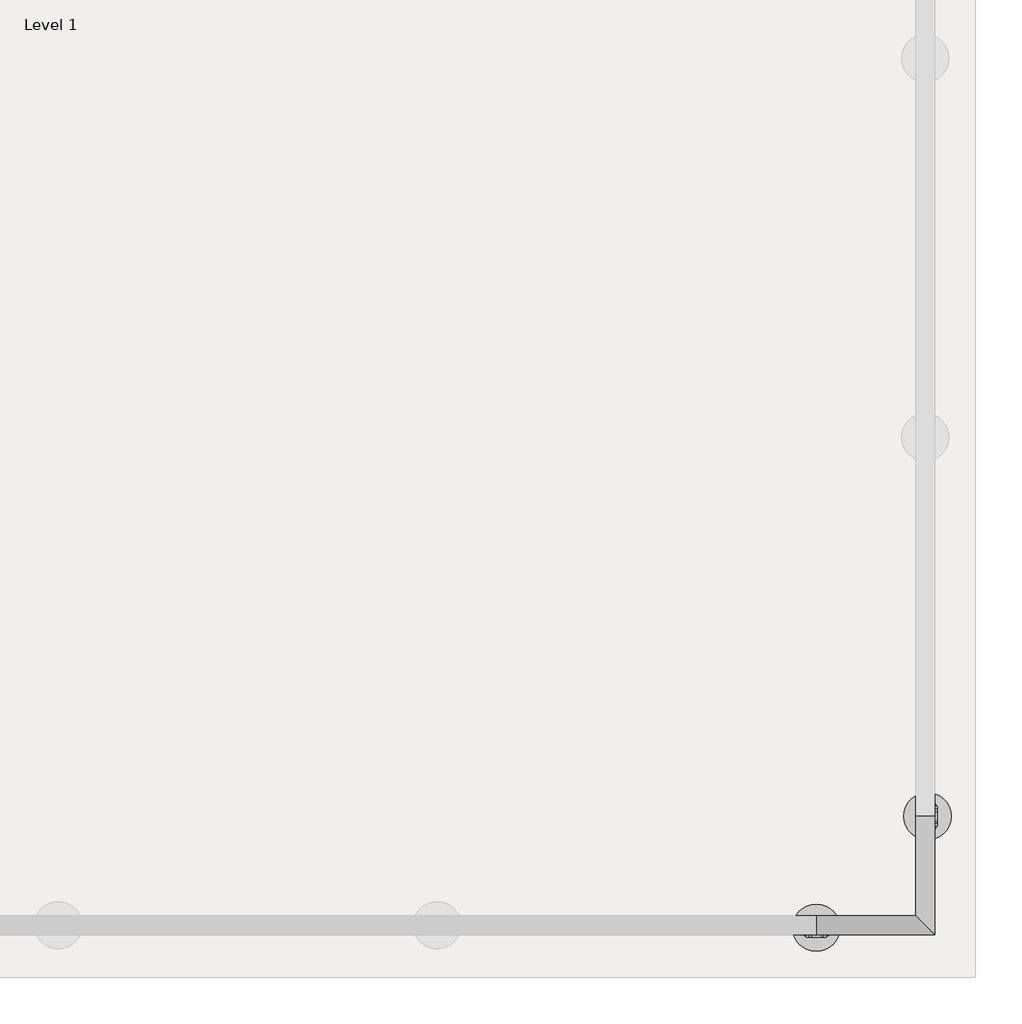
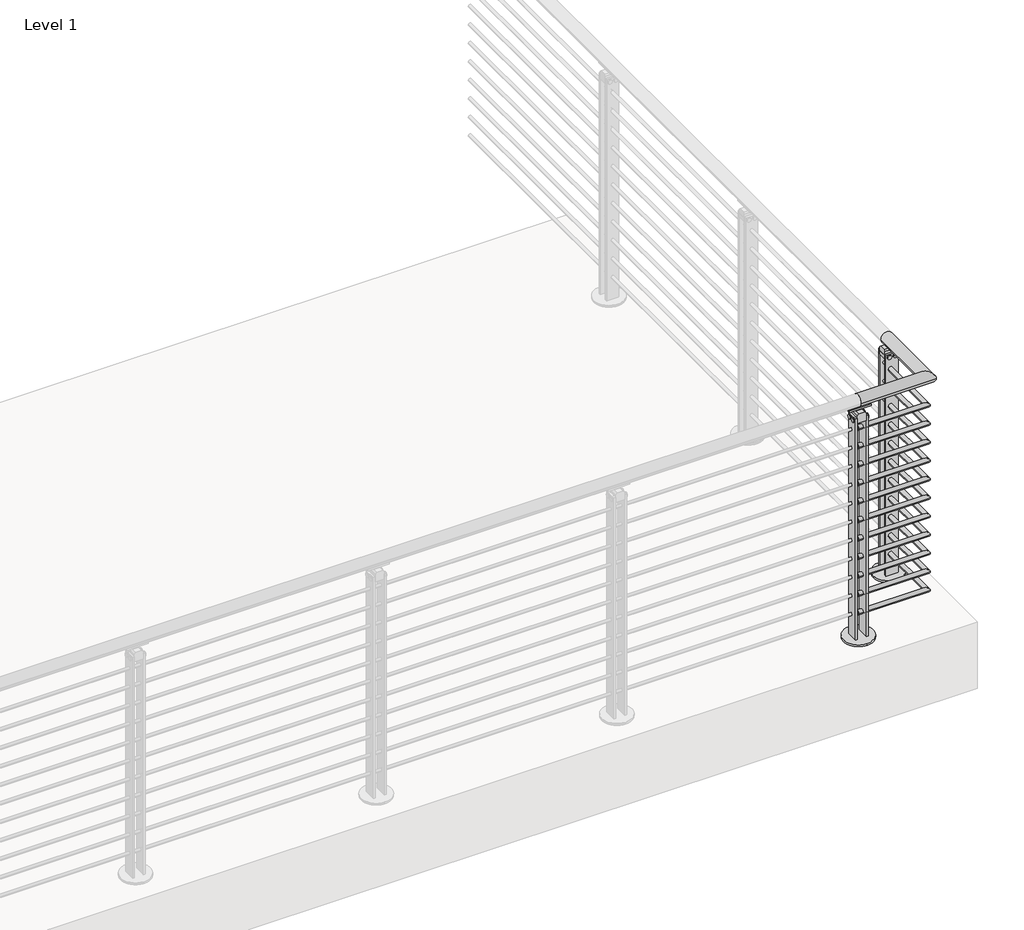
# One storey, part 13 of 36: 1 railing.
"""IFC4 building model written with IfcOpenShell, lengths in millimetres."""

from ifc_helpers import new_model, si_unit, point, frame, frame_2d, origin, origin_with_axes, place, context, project, spatial, polyline, circle_curve, ellipse_curve, trimmed, segment, composite_curve, outline, extrude, element, save
from ifc_brep_helpers import plane_surface, cylinder_surface, revolved_surface, advanced_brep

model = new_model("IFC4")

# Units and contexts
model_context = context("Model", 3, world=origin())
ifc_project = project(units=[si_unit("LENGTHUNIT", "METRE", prefix="MILLI")], contexts=[model_context])

# Site, building, storey
site = spatial("IfcSite", under=ifc_project)
building = spatial("IfcBuilding", under=site)
storey = spatial("IfcBuildingStorey", under=building, Name="Level 1", Elevation=0.0)

# Railing
placement = place(None, origin())
element("IfcRailing", 1, ObjectType="VIVA-BLADE-Multiline-Core Mount-Corner", at=placement, inside=storey, context=model_context, shape_type="SolidModel", body=[
    advanced_brep(
    [(69598.3092968, -74900.9334719, 1054.1), (69598.3092968, -74850.1334719, 1054.1), (69915.8092968, -74900.9334719, 1054.1), (69865.0092968, -74850.1334719, 1054.1), (69915.8092968, -74583.4334719, 1054.1), (69865.0092968, -74583.4334719, 1054.1)],
    [
        (0, 1, circle_curve(frame((69598.3092968, -74875.5334719, 1054.1), z_axis=(-1.0, 0.0, 0.0), x_axis=(0.0, 1.0, 0.0)), 25.4)),
        (1, 0, circle_curve(frame((69598.3092968, -74875.5334719, 1054.1), z_axis=(-1.0, 0.0, 0.0), x_axis=(0.0, 1.0, 0.0)), 25.4)),
        (0, 2),
        (2, 3, ellipse_curve(frame((69890.4092968, -74875.5334719, 1054.1), z_axis=(-0.7071067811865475, -0.7071067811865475, 0.0), x_axis=(-0.7071067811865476, 0.7071067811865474, 0.0)), 35.9210245, 25.4)),
        (3, 1),
        (3, 2, ellipse_curve(frame((69890.4092968, -74875.5334719, 1054.1), z_axis=(-0.7071067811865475, -0.7071067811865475, 0.0), x_axis=(-0.7071067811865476, 0.7071067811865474, 0.0)), 35.9210245, 25.4)),
        (4, 5, circle_curve(frame((69890.4092968, -74583.4334719, 1054.1), z_axis=(0.0, 1.0, 0.0), x_axis=(-1.0, 0.0, 0.0)), 25.4)),
        (5, 4, circle_curve(frame((69890.4092968, -74583.4334719, 1054.1), z_axis=(0.0, 1.0, 0.0), x_axis=(-1.0, 0.0, 0.0)), 25.4)),
        (2, 4),
        (5, 3),
    ],
    [
        plane_surface(frame((69598.3092968, -74875.5334719, 1079.5), z_axis=(-1.0, 0.0, 0.0), x_axis=(0.0, 1.0, 0.0))),
        cylinder_surface(frame((69598.3092968, -74875.5334719, 1054.1), z_axis=(-1.0, 0.0, 0.0), x_axis=(0.0, 1.0, 0.0)), 25.4),
        plane_surface(frame((69890.4092968, -74583.4334719, 1079.5), z_axis=(0.0, 1.0, 0.0), x_axis=(0.0, 0.0, 1.0))),
        cylinder_surface(frame((69890.4092968, -74875.5334719, 1054.1), z_axis=(0.0, -1.0, 0.0), x_axis=(-1.0, 0.0, 0.0)), 25.4),
    ],
    [
        (0, [[1, 2]]),
        (1, [[-1, 3, 4, 5]]),
        (1, [[-2, -5, 6, -3]]),
        (2, [[7, 8]]),
        (3, [[-4, 9, -8, 10]]),
        (3, [[-6, -10, -7, -9]]),
    ],
),
    advanced_brep(
    [(69598.3092968, -74866.0084719, 930.275), (69598.3092968, -74885.0584719, 930.275), (69880.8842968, -74866.0084719, 930.275), (69899.9342968, -74885.0584719, 930.275), (69880.8842968, -74583.4334719, 930.275), (69899.9342968, -74583.4334719, 930.275)],
    [
        (0, 1, circle_curve(frame((69598.3092968, -74875.5334719, 930.275), z_axis=(-1.0, 0.0, 0.0), x_axis=(0.0, -1.0, 0.0)), 9.525)),
        (1, 0, circle_curve(frame((69598.3092968, -74875.5334719, 930.275), z_axis=(-1.0, 0.0, 0.0), x_axis=(0.0, -1.0, 0.0)), 9.525)),
        (0, 2),
        (2, 3, ellipse_curve(frame((69890.4092968, -74875.5334719, 930.275), z_axis=(-0.7071067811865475, -0.7071067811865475, 0.0), x_axis=(-0.7071067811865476, 0.7071067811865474, 0.0)), 13.4703842, 9.525)),
        (3, 1),
        (3, 2, ellipse_curve(frame((69890.4092968, -74875.5334719, 930.275), z_axis=(-0.7071067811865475, -0.7071067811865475, 0.0), x_axis=(-0.7071067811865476, 0.7071067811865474, 0.0)), 13.4703842, 9.525)),
        (4, 5, circle_curve(frame((69890.4092968, -74583.4334719, 930.275), z_axis=(0.0, 1.0, 0.0), x_axis=(1.0, 0.0, 0.0)), 9.525)),
        (5, 4, circle_curve(frame((69890.4092968, -74583.4334719, 930.275), z_axis=(0.0, 1.0, 0.0), x_axis=(1.0, 0.0, 0.0)), 9.525)),
        (2, 4),
        (5, 3),
    ],
    [
        plane_surface(frame((69598.3092968, -74875.5334719, 939.8), z_axis=(-1.0, 0.0, 0.0), x_axis=(0.0, 1.0, 0.0))),
        cylinder_surface(frame((69598.3092968, -74875.5334719, 930.275), z_axis=(-1.0, 0.0, 0.0), x_axis=(0.0, -1.0, 0.0)), 9.525),
        plane_surface(frame((69890.4092968, -74583.4334719, 939.8), z_axis=(0.0, 1.0, 0.0), x_axis=(0.0, 0.0, 1.0))),
        cylinder_surface(frame((69890.4092968, -74875.5334719, 930.275), z_axis=(0.0, -1.0, 0.0), x_axis=(1.0, 0.0, 0.0)), 9.525),
    ],
    [
        (0, [[1, 2]]),
        (1, [[-1, 3, 4, 5]]),
        (1, [[-2, -5, 6, -3]]),
        (2, [[7, 8]]),
        (3, [[-4, 9, -8, 10]]),
        (3, [[-6, -10, -7, -9]]),
    ],
),
    advanced_brep(
    [(69598.3092968, -74866.0084719, 847.725), (69598.3092968, -74885.0584719, 847.725), (69880.8842968, -74866.0084719, 847.725), (69899.9342968, -74885.0584719, 847.725), (69880.8842968, -74583.4334719, 847.725), (69899.9342968, -74583.4334719, 847.725)],
    [
        (0, 1, circle_curve(frame((69598.3092968, -74875.5334719, 847.725), z_axis=(-1.0, 0.0, 0.0), x_axis=(0.0, -1.0, 0.0)), 9.525)),
        (1, 0, circle_curve(frame((69598.3092968, -74875.5334719, 847.725), z_axis=(-1.0, 0.0, 0.0), x_axis=(0.0, -1.0, 0.0)), 9.525)),
        (0, 2),
        (2, 3, ellipse_curve(frame((69890.4092968, -74875.5334719, 847.725), z_axis=(-0.7071067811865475, -0.7071067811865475, 0.0), x_axis=(-0.7071067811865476, 0.7071067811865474, 0.0)), 13.4703842, 9.525)),
        (3, 1),
        (3, 2, ellipse_curve(frame((69890.4092968, -74875.5334719, 847.725), z_axis=(-0.7071067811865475, -0.7071067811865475, 0.0), x_axis=(-0.7071067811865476, 0.7071067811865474, 0.0)), 13.4703842, 9.525)),
        (4, 5, circle_curve(frame((69890.4092968, -74583.4334719, 847.725), z_axis=(0.0, 1.0, 0.0), x_axis=(1.0, 0.0, 0.0)), 9.525)),
        (5, 4, circle_curve(frame((69890.4092968, -74583.4334719, 847.725), z_axis=(0.0, 1.0, 0.0), x_axis=(1.0, 0.0, 0.0)), 9.525)),
        (2, 4),
        (5, 3),
    ],
    [
        plane_surface(frame((69598.3092968, -74875.5334719, 857.25), z_axis=(-1.0, 0.0, 0.0), x_axis=(0.0, 1.0, 0.0))),
        cylinder_surface(frame((69598.3092968, -74875.5334719, 847.725), z_axis=(-1.0, 0.0, 0.0), x_axis=(0.0, -1.0, 0.0)), 9.525),
        plane_surface(frame((69890.4092968, -74583.4334719, 857.25), z_axis=(0.0, 1.0, 0.0), x_axis=(0.0, 0.0, 1.0))),
        cylinder_surface(frame((69890.4092968, -74875.5334719, 847.725), z_axis=(0.0, -1.0, 0.0), x_axis=(1.0, 0.0, 0.0)), 9.525),
    ],
    [
        (0, [[1, 2]]),
        (1, [[-1, 3, 4, 5]]),
        (1, [[-2, -5, 6, -3]]),
        (2, [[7, 8]]),
        (3, [[-4, 9, -8, 10]]),
        (3, [[-6, -10, -7, -9]]),
    ],
),
    advanced_brep(
    [(69598.3092968, -74866.0084719, 765.175), (69598.3092968, -74885.0584719, 765.175), (69880.8842968, -74866.0084719, 765.175), (69899.9342968, -74885.0584719, 765.175), (69880.8842968, -74583.4334719, 765.175), (69899.9342968, -74583.4334719, 765.175)],
    [
        (0, 1, circle_curve(frame((69598.3092968, -74875.5334719, 765.175), z_axis=(-1.0, 0.0, 0.0), x_axis=(0.0, -1.0, 0.0)), 9.525)),
        (1, 0, circle_curve(frame((69598.3092968, -74875.5334719, 765.175), z_axis=(-1.0, 0.0, 0.0), x_axis=(0.0, -1.0, 0.0)), 9.525)),
        (0, 2),
        (2, 3, ellipse_curve(frame((69890.4092968, -74875.5334719, 765.175), z_axis=(-0.7071067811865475, -0.7071067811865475, 0.0), x_axis=(-0.7071067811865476, 0.7071067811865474, 0.0)), 13.4703842, 9.525)),
        (3, 1),
        (3, 2, ellipse_curve(frame((69890.4092968, -74875.5334719, 765.175), z_axis=(-0.7071067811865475, -0.7071067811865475, 0.0), x_axis=(-0.7071067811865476, 0.7071067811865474, 0.0)), 13.4703842, 9.525)),
        (4, 5, circle_curve(frame((69890.4092968, -74583.4334719, 765.175), z_axis=(0.0, 1.0, 0.0), x_axis=(1.0, 0.0, 0.0)), 9.525)),
        (5, 4, circle_curve(frame((69890.4092968, -74583.4334719, 765.175), z_axis=(0.0, 1.0, 0.0), x_axis=(1.0, 0.0, 0.0)), 9.525)),
        (2, 4),
        (5, 3),
    ],
    [
        plane_surface(frame((69598.3092968, -74875.5334719, 774.7), z_axis=(-1.0, 0.0, 0.0), x_axis=(0.0, 1.0, 0.0))),
        cylinder_surface(frame((69598.3092968, -74875.5334719, 765.175), z_axis=(-1.0, 0.0, 0.0), x_axis=(0.0, -1.0, 0.0)), 9.525),
        plane_surface(frame((69890.4092968, -74583.4334719, 774.7), z_axis=(0.0, 1.0, 0.0), x_axis=(0.0, 0.0, 1.0))),
        cylinder_surface(frame((69890.4092968, -74875.5334719, 765.175), z_axis=(0.0, -1.0, 0.0), x_axis=(1.0, 0.0, 0.0)), 9.525),
    ],
    [
        (0, [[1, 2]]),
        (1, [[-1, 3, 4, 5]]),
        (1, [[-2, -5, 6, -3]]),
        (2, [[7, 8]]),
        (3, [[-4, 9, -8, 10]]),
        (3, [[-6, -10, -7, -9]]),
    ],
),
    advanced_brep(
    [(69598.3092968, -74866.0084719, 682.625), (69598.3092968, -74885.0584719, 682.625), (69880.8842968, -74866.0084719, 682.625), (69899.9342968, -74885.0584719, 682.625), (69880.8842968, -74583.4334719, 682.625), (69899.9342968, -74583.4334719, 682.625)],
    [
        (0, 1, circle_curve(frame((69598.3092968, -74875.5334719, 682.625), z_axis=(-1.0, 0.0, 0.0), x_axis=(0.0, -1.0, 0.0)), 9.525)),
        (1, 0, circle_curve(frame((69598.3092968, -74875.5334719, 682.625), z_axis=(-1.0, 0.0, 0.0), x_axis=(0.0, -1.0, 0.0)), 9.525)),
        (0, 2),
        (2, 3, ellipse_curve(frame((69890.4092968, -74875.5334719, 682.625), z_axis=(-0.7071067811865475, -0.7071067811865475, 0.0), x_axis=(-0.7071067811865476, 0.7071067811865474, 0.0)), 13.4703842, 9.525)),
        (3, 1),
        (3, 2, ellipse_curve(frame((69890.4092968, -74875.5334719, 682.625), z_axis=(-0.7071067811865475, -0.7071067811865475, 0.0), x_axis=(-0.7071067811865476, 0.7071067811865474, 0.0)), 13.4703842, 9.525)),
        (4, 5, circle_curve(frame((69890.4092968, -74583.4334719, 682.625), z_axis=(0.0, 1.0, 0.0), x_axis=(1.0, 0.0, 0.0)), 9.525)),
        (5, 4, circle_curve(frame((69890.4092968, -74583.4334719, 682.625), z_axis=(0.0, 1.0, 0.0), x_axis=(1.0, 0.0, 0.0)), 9.525)),
        (2, 4),
        (5, 3),
    ],
    [
        plane_surface(frame((69598.3092968, -74875.5334719, 692.15), z_axis=(-1.0, 0.0, 0.0), x_axis=(0.0, 1.0, 0.0))),
        cylinder_surface(frame((69598.3092968, -74875.5334719, 682.625), z_axis=(-1.0, 0.0, 0.0), x_axis=(0.0, -1.0, 0.0)), 9.525),
        plane_surface(frame((69890.4092968, -74583.4334719, 692.15), z_axis=(0.0, 1.0, 0.0), x_axis=(0.0, 0.0, 1.0))),
        cylinder_surface(frame((69890.4092968, -74875.5334719, 682.625), z_axis=(0.0, -1.0, 0.0), x_axis=(1.0, 0.0, 0.0)), 9.525),
    ],
    [
        (0, [[1, 2]]),
        (1, [[-1, 3, 4, 5]]),
        (1, [[-2, -5, 6, -3]]),
        (2, [[7, 8]]),
        (3, [[-4, 9, -8, 10]]),
        (3, [[-6, -10, -7, -9]]),
    ],
),
    advanced_brep(
    [(69598.3092968, -74866.0084719, 600.075), (69598.3092968, -74885.0584719, 600.075), (69880.8842968, -74866.0084719, 600.075), (69899.9342968, -74885.0584719, 600.075), (69880.8842968, -74583.4334719, 600.075), (69899.9342968, -74583.4334719, 600.075)],
    [
        (0, 1, circle_curve(frame((69598.3092968, -74875.5334719, 600.075), z_axis=(-1.0, 0.0, 0.0), x_axis=(0.0, -1.0, 0.0)), 9.525)),
        (1, 0, circle_curve(frame((69598.3092968, -74875.5334719, 600.075), z_axis=(-1.0, 0.0, 0.0), x_axis=(0.0, -1.0, 0.0)), 9.525)),
        (0, 2),
        (2, 3, ellipse_curve(frame((69890.4092968, -74875.5334719, 600.075), z_axis=(-0.7071067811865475, -0.7071067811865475, 0.0), x_axis=(-0.7071067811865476, 0.7071067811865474, 0.0)), 13.4703842, 9.525)),
        (3, 1),
        (3, 2, ellipse_curve(frame((69890.4092968, -74875.5334719, 600.075), z_axis=(-0.7071067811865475, -0.7071067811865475, 0.0), x_axis=(-0.7071067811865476, 0.7071067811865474, 0.0)), 13.4703842, 9.525)),
        (4, 5, circle_curve(frame((69890.4092968, -74583.4334719, 600.075), z_axis=(0.0, 1.0, 0.0), x_axis=(1.0, 0.0, 0.0)), 9.525)),
        (5, 4, circle_curve(frame((69890.4092968, -74583.4334719, 600.075), z_axis=(0.0, 1.0, 0.0), x_axis=(1.0, 0.0, 0.0)), 9.525)),
        (2, 4),
        (5, 3),
    ],
    [
        plane_surface(frame((69598.3092968, -74875.5334719, 609.6), z_axis=(-1.0, 0.0, 0.0), x_axis=(0.0, 1.0, 0.0))),
        cylinder_surface(frame((69598.3092968, -74875.5334719, 600.075), z_axis=(-1.0, 0.0, 0.0), x_axis=(0.0, -1.0, 0.0)), 9.525),
        plane_surface(frame((69890.4092968, -74583.4334719, 609.6), z_axis=(0.0, 1.0, 0.0), x_axis=(0.0, 0.0, 1.0))),
        cylinder_surface(frame((69890.4092968, -74875.5334719, 600.075), z_axis=(0.0, -1.0, 0.0), x_axis=(1.0, 0.0, 0.0)), 9.525),
    ],
    [
        (0, [[1, 2]]),
        (1, [[-1, 3, 4, 5]]),
        (1, [[-2, -5, 6, -3]]),
        (2, [[7, 8]]),
        (3, [[-4, 9, -8, 10]]),
        (3, [[-6, -10, -7, -9]]),
    ],
),
    advanced_brep(
    [(69598.3092968, -74866.0084719, 517.525), (69598.3092968, -74885.0584719, 517.525), (69880.8842968, -74866.0084719, 517.525), (69899.9342968, -74885.0584719, 517.525), (69880.8842968, -74583.4334719, 517.525), (69899.9342968, -74583.4334719, 517.525)],
    [
        (0, 1, circle_curve(frame((69598.3092968, -74875.5334719, 517.525), z_axis=(-1.0, 0.0, 0.0), x_axis=(0.0, -1.0, 0.0)), 9.525)),
        (1, 0, circle_curve(frame((69598.3092968, -74875.5334719, 517.525), z_axis=(-1.0, 0.0, 0.0), x_axis=(0.0, -1.0, 0.0)), 9.525)),
        (0, 2),
        (2, 3, ellipse_curve(frame((69890.4092968, -74875.5334719, 517.525), z_axis=(-0.7071067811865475, -0.7071067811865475, 0.0), x_axis=(-0.7071067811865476, 0.7071067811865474, 0.0)), 13.4703842, 9.525)),
        (3, 1),
        (3, 2, ellipse_curve(frame((69890.4092968, -74875.5334719, 517.525), z_axis=(-0.7071067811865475, -0.7071067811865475, 0.0), x_axis=(-0.7071067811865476, 0.7071067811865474, 0.0)), 13.4703842, 9.525)),
        (4, 5, circle_curve(frame((69890.4092968, -74583.4334719, 517.525), z_axis=(0.0, 1.0, 0.0), x_axis=(1.0, 0.0, 0.0)), 9.525)),
        (5, 4, circle_curve(frame((69890.4092968, -74583.4334719, 517.525), z_axis=(0.0, 1.0, 0.0), x_axis=(1.0, 0.0, 0.0)), 9.525)),
        (2, 4),
        (5, 3),
    ],
    [
        plane_surface(frame((69598.3092968, -74875.5334719, 527.05), z_axis=(-1.0, 0.0, 0.0), x_axis=(0.0, 1.0, 0.0))),
        cylinder_surface(frame((69598.3092968, -74875.5334719, 517.525), z_axis=(-1.0, 0.0, 0.0), x_axis=(0.0, -1.0, 0.0)), 9.525),
        plane_surface(frame((69890.4092968, -74583.4334719, 527.05), z_axis=(0.0, 1.0, 0.0), x_axis=(0.0, 0.0, 1.0))),
        cylinder_surface(frame((69890.4092968, -74875.5334719, 517.525), z_axis=(0.0, -1.0, 0.0), x_axis=(1.0, 0.0, 0.0)), 9.525),
    ],
    [
        (0, [[1, 2]]),
        (1, [[-1, 3, 4, 5]]),
        (1, [[-2, -5, 6, -3]]),
        (2, [[7, 8]]),
        (3, [[-4, 9, -8, 10]]),
        (3, [[-6, -10, -7, -9]]),
    ],
),
    advanced_brep(
    [(69598.3092968, -74866.0084719, 434.975), (69598.3092968, -74885.0584719, 434.975), (69880.8842968, -74866.0084719, 434.975), (69899.9342968, -74885.0584719, 434.975), (69880.8842968, -74583.4334719, 434.975), (69899.9342968, -74583.4334719, 434.975)],
    [
        (0, 1, circle_curve(frame((69598.3092968, -74875.5334719, 434.975), z_axis=(-1.0, 0.0, 0.0), x_axis=(0.0, -1.0, 0.0)), 9.525)),
        (1, 0, circle_curve(frame((69598.3092968, -74875.5334719, 434.975), z_axis=(-1.0, 0.0, 0.0), x_axis=(0.0, -1.0, 0.0)), 9.525)),
        (0, 2),
        (2, 3, ellipse_curve(frame((69890.4092968, -74875.5334719, 434.975), z_axis=(-0.7071067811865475, -0.7071067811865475, 0.0), x_axis=(-0.7071067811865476, 0.7071067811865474, 0.0)), 13.4703842, 9.525)),
        (3, 1),
        (3, 2, ellipse_curve(frame((69890.4092968, -74875.5334719, 434.975), z_axis=(-0.7071067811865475, -0.7071067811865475, 0.0), x_axis=(-0.7071067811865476, 0.7071067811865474, 0.0)), 13.4703842, 9.525)),
        (4, 5, circle_curve(frame((69890.4092968, -74583.4334719, 434.975), z_axis=(0.0, 1.0, 0.0), x_axis=(1.0, 0.0, 0.0)), 9.525)),
        (5, 4, circle_curve(frame((69890.4092968, -74583.4334719, 434.975), z_axis=(0.0, 1.0, 0.0), x_axis=(1.0, 0.0, 0.0)), 9.525)),
        (2, 4),
        (5, 3),
    ],
    [
        plane_surface(frame((69598.3092968, -74875.5334719, 444.5), z_axis=(-1.0, 0.0, 0.0), x_axis=(0.0, 1.0, 0.0))),
        cylinder_surface(frame((69598.3092968, -74875.5334719, 434.975), z_axis=(-1.0, 0.0, 0.0), x_axis=(0.0, -1.0, 0.0)), 9.525),
        plane_surface(frame((69890.4092968, -74583.4334719, 444.5), z_axis=(0.0, 1.0, 0.0), x_axis=(0.0, 0.0, 1.0))),
        cylinder_surface(frame((69890.4092968, -74875.5334719, 434.975), z_axis=(0.0, -1.0, 0.0), x_axis=(1.0, 0.0, 0.0)), 9.525),
    ],
    [
        (0, [[1, 2]]),
        (1, [[-1, 3, 4, 5]]),
        (1, [[-2, -5, 6, -3]]),
        (2, [[7, 8]]),
        (3, [[-4, 9, -8, 10]]),
        (3, [[-6, -10, -7, -9]]),
    ],
),
    advanced_brep(
    [(69598.3092968, -74866.0084719, 352.425), (69598.3092968, -74885.0584719, 352.425), (69880.8842968, -74866.0084719, 352.425), (69899.9342968, -74885.0584719, 352.425), (69880.8842968, -74583.4334719, 352.425), (69899.9342968, -74583.4334719, 352.425)],
    [
        (0, 1, circle_curve(frame((69598.3092968, -74875.5334719, 352.425), z_axis=(-1.0, 0.0, 0.0), x_axis=(0.0, -1.0, 0.0)), 9.525)),
        (1, 0, circle_curve(frame((69598.3092968, -74875.5334719, 352.425), z_axis=(-1.0, 0.0, 0.0), x_axis=(0.0, -1.0, 0.0)), 9.525)),
        (0, 2),
        (2, 3, ellipse_curve(frame((69890.4092968, -74875.5334719, 352.425), z_axis=(-0.7071067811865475, -0.7071067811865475, 0.0), x_axis=(-0.7071067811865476, 0.7071067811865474, 0.0)), 13.4703842, 9.525)),
        (3, 1),
        (3, 2, ellipse_curve(frame((69890.4092968, -74875.5334719, 352.425), z_axis=(-0.7071067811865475, -0.7071067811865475, 0.0), x_axis=(-0.7071067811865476, 0.7071067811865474, 0.0)), 13.4703842, 9.525)),
        (4, 5, circle_curve(frame((69890.4092968, -74583.4334719, 352.425), z_axis=(0.0, 1.0, 0.0), x_axis=(1.0, 0.0, 0.0)), 9.525)),
        (5, 4, circle_curve(frame((69890.4092968, -74583.4334719, 352.425), z_axis=(0.0, 1.0, 0.0), x_axis=(1.0, 0.0, 0.0)), 9.525)),
        (2, 4),
        (5, 3),
    ],
    [
        plane_surface(frame((69598.3092968, -74875.5334719, 361.95), z_axis=(-1.0, 0.0, 0.0), x_axis=(0.0, 1.0, 0.0))),
        cylinder_surface(frame((69598.3092968, -74875.5334719, 352.425), z_axis=(-1.0, 0.0, 0.0), x_axis=(0.0, -1.0, 0.0)), 9.525),
        plane_surface(frame((69890.4092968, -74583.4334719, 361.95), z_axis=(0.0, 1.0, 0.0), x_axis=(0.0, 0.0, 1.0))),
        cylinder_surface(frame((69890.4092968, -74875.5334719, 352.425), z_axis=(0.0, -1.0, 0.0), x_axis=(1.0, 0.0, 0.0)), 9.525),
    ],
    [
        (0, [[1, 2]]),
        (1, [[-1, 3, 4, 5]]),
        (1, [[-2, -5, 6, -3]]),
        (2, [[7, 8]]),
        (3, [[-4, 9, -8, 10]]),
        (3, [[-6, -10, -7, -9]]),
    ],
),
    advanced_brep(
    [(69598.3092968, -74866.0084719, 269.875), (69598.3092968, -74885.0584719, 269.875), (69880.8842968, -74866.0084719, 269.875), (69899.9342968, -74885.0584719, 269.875), (69880.8842968, -74583.4334719, 269.875), (69899.9342968, -74583.4334719, 269.875)],
    [
        (0, 1, circle_curve(frame((69598.3092968, -74875.5334719, 269.875), z_axis=(-1.0, 0.0, 0.0), x_axis=(0.0, -1.0, 0.0)), 9.525)),
        (1, 0, circle_curve(frame((69598.3092968, -74875.5334719, 269.875), z_axis=(-1.0, 0.0, 0.0), x_axis=(0.0, -1.0, 0.0)), 9.525)),
        (0, 2),
        (2, 3, ellipse_curve(frame((69890.4092968, -74875.5334719, 269.875), z_axis=(-0.7071067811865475, -0.7071067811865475, 0.0), x_axis=(-0.7071067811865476, 0.7071067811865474, 0.0)), 13.4703842, 9.525)),
        (3, 1),
        (3, 2, ellipse_curve(frame((69890.4092968, -74875.5334719, 269.875), z_axis=(-0.7071067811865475, -0.7071067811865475, 0.0), x_axis=(-0.7071067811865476, 0.7071067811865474, 0.0)), 13.4703842, 9.525)),
        (4, 5, circle_curve(frame((69890.4092968, -74583.4334719, 269.875), z_axis=(0.0, 1.0, 0.0), x_axis=(1.0, 0.0, 0.0)), 9.525)),
        (5, 4, circle_curve(frame((69890.4092968, -74583.4334719, 269.875), z_axis=(0.0, 1.0, 0.0), x_axis=(1.0, 0.0, 0.0)), 9.525)),
        (2, 4),
        (5, 3),
    ],
    [
        plane_surface(frame((69598.3092968, -74875.5334719, 279.4), z_axis=(-1.0, 0.0, 0.0), x_axis=(0.0, 1.0, 0.0))),
        cylinder_surface(frame((69598.3092968, -74875.5334719, 269.875), z_axis=(-1.0, 0.0, 0.0), x_axis=(0.0, -1.0, 0.0)), 9.525),
        plane_surface(frame((69890.4092968, -74583.4334719, 279.4), z_axis=(0.0, 1.0, 0.0), x_axis=(0.0, 0.0, 1.0))),
        cylinder_surface(frame((69890.4092968, -74875.5334719, 269.875), z_axis=(0.0, -1.0, 0.0), x_axis=(1.0, 0.0, 0.0)), 9.525),
    ],
    [
        (0, [[1, 2]]),
        (1, [[-1, 3, 4, 5]]),
        (1, [[-2, -5, 6, -3]]),
        (2, [[7, 8]]),
        (3, [[-4, 9, -8, 10]]),
        (3, [[-6, -10, -7, -9]]),
    ],
),
    advanced_brep(
    [(69598.3092968, -74866.0084719, 187.325), (69598.3092968, -74885.0584719, 187.325), (69880.8842968, -74866.0084719, 187.325), (69899.9342968, -74885.0584719, 187.325), (69880.8842968, -74583.4334719, 187.325), (69899.9342968, -74583.4334719, 187.325)],
    [
        (0, 1, circle_curve(frame((69598.3092968, -74875.5334719, 187.325), z_axis=(-1.0, 0.0, 0.0), x_axis=(0.0, -1.0, 0.0)), 9.525)),
        (1, 0, circle_curve(frame((69598.3092968, -74875.5334719, 187.325), z_axis=(-1.0, 0.0, 0.0), x_axis=(0.0, -1.0, 0.0)), 9.525)),
        (0, 2),
        (2, 3, ellipse_curve(frame((69890.4092968, -74875.5334719, 187.325), z_axis=(-0.7071067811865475, -0.7071067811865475, 0.0), x_axis=(-0.7071067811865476, 0.7071067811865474, 0.0)), 13.4703842, 9.525)),
        (3, 1),
        (3, 2, ellipse_curve(frame((69890.4092968, -74875.5334719, 187.325), z_axis=(-0.7071067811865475, -0.7071067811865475, 0.0), x_axis=(-0.7071067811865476, 0.7071067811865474, 0.0)), 13.4703842, 9.525)),
        (4, 5, circle_curve(frame((69890.4092968, -74583.4334719, 187.325), z_axis=(0.0, 1.0, 0.0), x_axis=(1.0, 0.0, 0.0)), 9.525)),
        (5, 4, circle_curve(frame((69890.4092968, -74583.4334719, 187.325), z_axis=(0.0, 1.0, 0.0), x_axis=(1.0, 0.0, 0.0)), 9.525)),
        (2, 4),
        (5, 3),
    ],
    [
        plane_surface(frame((69598.3092968, -74875.5334719, 196.85), z_axis=(-1.0, 0.0, 0.0), x_axis=(0.0, 1.0, 0.0))),
        cylinder_surface(frame((69598.3092968, -74875.5334719, 187.325), z_axis=(-1.0, 0.0, 0.0), x_axis=(0.0, -1.0, 0.0)), 9.525),
        plane_surface(frame((69890.4092968, -74583.4334719, 196.85), z_axis=(0.0, 1.0, 0.0), x_axis=(0.0, 0.0, 1.0))),
        cylinder_surface(frame((69890.4092968, -74875.5334719, 187.325), z_axis=(0.0, -1.0, 0.0), x_axis=(1.0, 0.0, 0.0)), 9.525),
    ],
    [
        (0, [[1, 2]]),
        (1, [[-1, 3, 4, 5]]),
        (1, [[-2, -5, 6, -3]]),
        (2, [[7, 8]]),
        (3, [[-4, 9, -8, 10]]),
        (3, [[-6, -10, -7, -9]]),
    ],
),
    advanced_brep(
    [(69598.3092968, -74866.0084719, 104.775), (69598.3092968, -74885.0584719, 104.775), (69880.8842968, -74866.0084719, 104.775), (69899.9342968, -74885.0584719, 104.775), (69880.8842968, -74583.4334719, 104.775), (69899.9342968, -74583.4334719, 104.775)],
    [
        (0, 1, circle_curve(frame((69598.3092968, -74875.5334719, 104.775), z_axis=(-1.0, 0.0, 0.0), x_axis=(0.0, -1.0, 0.0)), 9.525)),
        (1, 0, circle_curve(frame((69598.3092968, -74875.5334719, 104.775), z_axis=(-1.0, 0.0, 0.0), x_axis=(0.0, -1.0, 0.0)), 9.525)),
        (0, 2),
        (2, 3, ellipse_curve(frame((69890.4092968, -74875.5334719, 104.775), z_axis=(-0.7071067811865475, -0.7071067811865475, 0.0), x_axis=(-0.7071067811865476, 0.7071067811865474, 0.0)), 13.4703842, 9.525)),
        (3, 1),
        (3, 2, ellipse_curve(frame((69890.4092968, -74875.5334719, 104.775), z_axis=(-0.7071067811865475, -0.7071067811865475, 0.0), x_axis=(-0.7071067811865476, 0.7071067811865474, 0.0)), 13.4703842, 9.525)),
        (4, 5, circle_curve(frame((69890.4092968, -74583.4334719, 104.775), z_axis=(0.0, 1.0, 0.0), x_axis=(1.0, 0.0, 0.0)), 9.525)),
        (5, 4, circle_curve(frame((69890.4092968, -74583.4334719, 104.775), z_axis=(0.0, 1.0, 0.0), x_axis=(1.0, 0.0, 0.0)), 9.525)),
        (2, 4),
        (5, 3),
    ],
    [
        plane_surface(frame((69598.3092968, -74875.5334719, 114.3), z_axis=(-1.0, 0.0, 0.0), x_axis=(0.0, 1.0, 0.0))),
        cylinder_surface(frame((69598.3092968, -74875.5334719, 104.775), z_axis=(-1.0, 0.0, 0.0), x_axis=(0.0, -1.0, 0.0)), 9.525),
        plane_surface(frame((69890.4092968, -74583.4334719, 114.3), z_axis=(0.0, 1.0, 0.0), x_axis=(0.0, 0.0, 1.0))),
        cylinder_surface(frame((69890.4092968, -74875.5334719, 104.775), z_axis=(0.0, -1.0, 0.0), x_axis=(1.0, 0.0, 0.0)), 9.525),
    ],
    [
        (0, [[1, 2]]),
        (1, [[-1, 3, 4, 5]]),
        (1, [[-2, -5, 6, -3]]),
        (2, [[7, 8]]),
        (3, [[-4, 9, -8, 10]]),
        (3, [[-6, -10, -7, -9]]),
    ],
),
    extrude(outline(polyline([(69871.3595001, -74610.5083075), (69871.3595001, -74602.4834719), (69922.1618247, -74602.4834719), (69922.1618247, -74610.5083075), (69871.3595001, -74610.5083075)])), frame((0.0, 0.0, -146.05), z_axis=(0.0, 0.0, 1.0), x_axis=(1.0, 0.0, 0.0)), (0.0, 0.0, 1.0), 146.05),
    extrude(outline(polyline([(69871.3595001, -74564.3835099), (69871.3595001, -74556.3825099), (69922.1618247, -74556.3825099), (69922.1618247, -74564.3835099), (69871.3595001, -74564.3835099)])), frame((0.0, 0.0, -146.05), z_axis=(0.0, 0.0, 1.0), x_axis=(1.0, 0.0, 0.0)), (0.0, 0.0, 1.0), 146.05),
    extrude(outline(composite_curve([segment(trimmed(circle_curve(frame_2d((69896.7592968, -74583.4454087)), 63.4988059), [point((69960.2581027, -74583.4454087))], [point((69833.2604908, -74583.4454087))], False, "CARTESIAN"), True, "CONTINUOUS"), segment(trimmed(circle_curve(frame_2d((69896.7592968, -74583.4454087)), 63.4988059), [point((69833.2604908, -74583.4454087))], [point((69960.2581027, -74583.4454087))], False, "CARTESIAN"), True, "CONTINUOUS")], self_intersect=False)), origin_with_axes(), (0.0, 0.0, 1.0), 9.525),
    advanced_brep(
    [(69883.9991731, -74538.1960719, 1032.0967655), (69908.8712376, -74538.1960719, 1031.9535285), (69911.680168, -74538.1960719, 1027.1267745), (69880.1632757, -74538.1960719, 1027.707533), (69883.9991731, -74628.6708719, 1032.0967655), (69880.1632757, -74628.6708719, 1027.707533), (69911.7939614, -74628.6708719, 1027.1893964), (69908.9582098, -74628.6708719, 1032.0018447)],
    [
        (0, 1, circle_curve(frame((69896.562976, -74538.1960719, 1054.2115898), z_axis=(0.0, -1.0, 0.0), x_axis=(-1.0, 0.0, 0.0)), 25.4345159)),
        (1, 2, circle_curve(frame((69910.2028629, -74538.1960719, 1029.4993599), z_axis=(0.0, 1.0, 0.0), x_axis=(-1.0, 0.0, 0.0)), 2.7949225)),
        (2, 3, circle_curve(frame((69896.4295129, -74538.1960719, 1054.9742164), z_axis=(0.0, 1.0, 0.0), x_axis=(-1.0, 0.0, 0.0)), 31.75)),
        (3, 0, circle_curve(frame((69882.4516155, -74538.1960719, 1029.5784521), z_axis=(0.0, 1.0, 0.0), x_axis=(-1.0, 0.0, 0.0)), 2.9558141)),
        (4, 5, circle_curve(frame((69882.4516155, -74628.6708719, 1029.5784521), z_axis=(0.0, -1.0, 0.0), x_axis=(-1.0, 0.0, 0.0)), 2.9558141)),
        (5, 6, circle_curve(frame((69896.4295129, -74628.6708719, 1054.9742164), z_axis=(0.0, -1.0, 0.0), x_axis=(-1.0, 0.0, 0.0)), 31.75)),
        (6, 7, circle_curve(frame((69910.2028629, -74628.6708719, 1029.4993599), z_axis=(0.0, -1.0, 0.0), x_axis=(-1.0, 0.0, 0.0)), 2.7949225)),
        (7, 4, circle_curve(frame((69896.562976, -74628.6708719, 1054.2115898), z_axis=(0.0, 1.0, 0.0), x_axis=(-1.0, 0.0, 0.0)), 25.4345159)),
        (0, 4),
        (7, 1),
        (6, 2),
        (5, 3),
    ],
    [
        plane_surface(frame((69871.1284602, -74538.1960719, 1054.2115898), z_axis=(0.0, 1.0, 0.0), x_axis=(0.0, 0.0, -1.0))),
        plane_surface(frame((69871.1284602, -74628.6708719, 1054.2115898), z_axis=(0.0, -1.0, 0.0), x_axis=(0.0, 0.0, 1.0))),
        revolved_surface(polyline([(69871.12846010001, -74628.6708719, 1054.2115898), (69871.12846010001, -74538.1960719, 1054.2115898)]), (69896.562976, -74628.6708719, 1054.2115898), (0.0, -1.0, 0.0)),
        cylinder_surface(frame((69910.2028629, -74628.6708719, 1029.4993599), z_axis=(0.0, 1.0, 0.0), x_axis=(-1.0, 0.0, 0.0)), 2.7949225),
        cylinder_surface(frame((69896.4295129, -74628.6708719, 1054.9742164), z_axis=(0.0, 1.0, 0.0), x_axis=(-1.0, 0.0, 0.0)), 31.75),
        cylinder_surface(frame((69882.4516155, -74628.6708719, 1029.5784521), z_axis=(0.0, 1.0, 0.0), x_axis=(-1.0, 0.0, 0.0)), 2.9558141),
    ],
    [
        (0, [[1, 2, 3, 4]]),
        (1, [[5, 6, 7, 8]]),
        (2, [[-1, 9, -8, 10]]),
        (3, [[-2, -10, -7, 11]]),
        (4, [[-3, -11, -6, 12]]),
        (5, [[-4, -12, -5, -9]]),
    ],
),
    advanced_brep(
    [(69894.2192968, -74570.7334719, 1014.4125), (69894.2192968, -74596.1334719, 1014.4125), (69894.2192968, -74610.5013867, 1028.7804149), (69894.2192968, -74556.365557, 1028.7804149), (69899.2992968, -74570.7334719, 1014.4125), (69899.2992968, -74556.365557, 1028.7804149), (69899.2992968, -74610.5013867, 1028.7804149), (69899.2992968, -74596.1334719, 1014.4125)],
    [
        (0, 1),
        (1, 2, circle_curve(frame((69894.2192968, -74610.5013867, 1014.4125), z_axis=(1.0, 0.0, 0.0), x_axis=(0.0, -1.0, 0.0)), 14.3679149)),
        (2, 3),
        (3, 0, circle_curve(frame((69894.2192968, -74556.365557, 1014.4125), z_axis=(1.0, 0.0, 0.0), x_axis=(0.0, -1.0, 0.0)), 14.3679149)),
        (4, 5, circle_curve(frame((69899.2992968, -74556.365557, 1014.4125), z_axis=(-1.0, 0.0, 0.0), x_axis=(0.0, -1.0, 0.0)), 14.3679149)),
        (5, 6),
        (6, 7, circle_curve(frame((69899.2992968, -74610.5013867, 1014.4125), z_axis=(-1.0, 0.0, 0.0), x_axis=(0.0, -1.0, 0.0)), 14.3679149)),
        (7, 4),
        (0, 4),
        (7, 1),
        (6, 2),
        (5, 3),
    ],
    [
        plane_surface(frame((69894.2192968, -74596.1334719, 1014.4125), z_axis=(-1.0, 0.0, 0.0), x_axis=(0.0, -1.0, 0.0))),
        plane_surface(frame((69899.2992968, -74596.1334719, 1014.4125), z_axis=(1.0, 0.0, 0.0), x_axis=(0.0, 1.0, 0.0))),
        plane_surface(frame((69894.2192968, -74570.7334719, 1014.4125), z_axis=(0.0, 0.0, -1.0), x_axis=(1.0, 0.0, 0.0))),
        revolved_surface(polyline([(69899.2992968, -74624.86930159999, 1014.4125), (69894.2192968, -74624.86930159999, 1014.4125)]), (69899.2992968, -74610.5013867, 1014.4125), (1.0, 0.0, 0.0)),
        plane_surface(frame((69894.2192968, -74610.5013867, 1028.7804149), z_axis=(0.0, 0.0, 1.0), x_axis=(1.0, 0.0, 0.0))),
        revolved_surface(polyline([(69899.2992968, -74570.73347189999, 1014.4125), (69894.2192968, -74570.73347189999, 1014.4125)]), (69899.2992968, -74556.365557, 1014.4125), (1.0, 0.0, 0.0)),
    ],
    [
        (0, [[1, 2, 3, 4]]),
        (1, [[5, 6, 7, 8]]),
        (2, [[-1, 9, -8, 10]]),
        (3, [[-2, -10, -7, 11]]),
        (4, [[-3, -11, -6, 12]]),
        (5, [[-4, -12, -5, -9]]),
    ],
),
    extrude(outline(polyline([(69871.3595001, -74610.5083075), (69871.3595001, -74602.4834719), (69922.1618247, -74602.4834719), (69922.1618247, -74610.5083075), (69871.3595001, -74610.5083075)])), origin_with_axes(), (0.0, 0.0, 1.0), 996.95),
    extrude(outline(composite_curve([segment(trimmed(circle_curve(frame_2d((986.0416929, 69909.4617737)), 8.89), [point((986.0416929, 69918.3517737))], [point((986.0416929, 69900.5717737))], False, "CARTESIAN"), True, "CONTINUOUS"), segment(trimmed(circle_curve(frame_2d((986.0416929, 69909.4617737)), 8.89), [point((986.0416929, 69900.5717737))], [point((986.0416929, 69918.3517737))], False, "CARTESIAN"), True, "CONTINUOUS")], self_intersect=False)), frame((0.0, -74615.1834719, 0.0), z_axis=(0.0, 1.0, 0.0), x_axis=(0.0, 0.0, 1.0)), (0.0, 0.0, 1.0), 63.4880631),
    extrude(outline(composite_curve([segment(trimmed(circle_curve(frame_2d((986.0416929, 69884.0618757)), 8.89), [point((986.0416929, 69892.9518757))], [point((986.0416929, 69875.1718757))], False, "CARTESIAN"), True, "CONTINUOUS"), segment(trimmed(circle_curve(frame_2d((986.0416929, 69884.0618757)), 8.89), [point((986.0416929, 69875.1718757))], [point((986.0416929, 69892.9518757))], False, "CARTESIAN"), True, "CONTINUOUS")], self_intersect=False)), frame((0.0, -74615.1834719, 0.0), z_axis=(0.0, 1.0, 0.0), x_axis=(0.0, 0.0, 1.0)), (0.0, 0.0, 1.0), 63.4880631),
    extrude(outline(polyline([(-74602.4834719, 974.7123), (-74602.4834719, 1008.0625), (-74596.1334719, 1014.4125), (-74570.7334719, 1014.4125), (-74564.3834719, 1008.0625), (-74564.3834719, 974.7123), (-74602.4834719, 974.7123)])), frame((69871.3592968, 0.0, 0.0), z_axis=(1.0, 0.0, 0.0), x_axis=(0.0, 1.0, 0.0)), (0.0, 0.0, 1.0), 50.8025279),
    extrude(outline(polyline([(69871.3595001, -74564.3835099), (69871.3595001, -74556.3825099), (69922.1618247, -74556.3825099), (69922.1618247, -74564.3835099), (69871.3595001, -74564.3835099)])), origin_with_axes(), (0.0, 0.0, 1.0), 996.95),
    extrude(outline(polyline([(69571.2344611, -74856.4836752), (69579.2592968, -74856.4836752), (69579.2592968, -74907.2859998), (69571.2344611, -74907.2859998), (69571.2344611, -74856.4836752)])), frame((0.0, 0.0, -146.05), z_axis=(0.0, 0.0, 1.0), x_axis=(1.0, 0.0, 0.0)), (0.0, 0.0, 1.0), 146.05),
    extrude(outline(polyline([(69617.3592587, -74856.4836752), (69625.3602587, -74856.4836752), (69625.3602587, -74907.2859998), (69617.3592587, -74907.2859998), (69617.3592587, -74856.4836752)])), frame((0.0, 0.0, -146.05), z_axis=(0.0, 0.0, 1.0), x_axis=(1.0, 0.0, 0.0)), (0.0, 0.0, 1.0), 146.05),
    extrude(outline(composite_curve([segment(trimmed(circle_curve(frame_2d((69598.2973599, -74881.8834719)), 63.4988059), [point((69598.2973599, -74945.3822778))], [point((69598.2973599, -74818.3846659))], False, "CARTESIAN"), True, "CONTINUOUS"), segment(trimmed(circle_curve(frame_2d((69598.2973599, -74881.8834719)), 63.4988059), [point((69598.2973599, -74818.3846659))], [point((69598.2973599, -74945.3822778))], False, "CARTESIAN"), True, "CONTINUOUS")], self_intersect=False)), origin_with_axes(), (0.0, 0.0, 1.0), 9.525),
    advanced_brep(
    [(69643.5466968, -74869.1233482, 1032.0967655), (69643.5466968, -74893.9954127, 1031.9535285), (69643.5466968, -74896.8043431, 1027.1267745), (69643.5466968, -74865.2874508, 1027.707533), (69553.0718968, -74869.1233482, 1032.0967655), (69553.0718968, -74865.2874508, 1027.707533), (69553.0718968, -74896.9181364, 1027.1893964), (69553.0718968, -74894.0823849, 1032.0018447)],
    [
        (0, 1, circle_curve(frame((69643.5466968, -74881.6871511, 1054.2115898), z_axis=(-1.0, 0.0, 0.0), x_axis=(0.0, 1.0, 0.0)), 25.4345159)),
        (1, 2, circle_curve(frame((69643.5466968, -74895.327038, 1029.4993599), z_axis=(1.0, 0.0, 0.0), x_axis=(0.0, 1.0, 0.0)), 2.7949225)),
        (2, 3, circle_curve(frame((69643.5466968, -74881.553688, 1054.9742164), z_axis=(1.0, 0.0, 0.0), x_axis=(0.0, 1.0, 0.0)), 31.75)),
        (3, 0, circle_curve(frame((69643.5466968, -74867.5757905, 1029.5784521), z_axis=(1.0, 0.0, 0.0), x_axis=(0.0, 1.0, 0.0)), 2.9558141)),
        (4, 5, circle_curve(frame((69553.0718968, -74867.5757905, 1029.5784521), z_axis=(-1.0, 0.0, 0.0), x_axis=(0.0, 1.0, 0.0)), 2.9558141)),
        (5, 6, circle_curve(frame((69553.0718968, -74881.553688, 1054.9742164), z_axis=(-1.0, 0.0, 0.0), x_axis=(0.0, 1.0, 0.0)), 31.75)),
        (6, 7, circle_curve(frame((69553.0718968, -74895.327038, 1029.4993599), z_axis=(-1.0, 0.0, 0.0), x_axis=(0.0, 1.0, 0.0)), 2.7949225)),
        (7, 4, circle_curve(frame((69553.0718968, -74881.6871511, 1054.2115898), z_axis=(1.0, 0.0, 0.0), x_axis=(0.0, 1.0, 0.0)), 25.4345159)),
        (0, 4),
        (7, 1),
        (6, 2),
        (5, 3),
    ],
    [
        plane_surface(frame((69643.5466968, -74856.2526353, 1054.2115898), z_axis=(1.0, 0.0, 0.0), x_axis=(0.0, 0.0, -1.0))),
        plane_surface(frame((69553.0718968, -74856.2526353, 1054.2115898), z_axis=(-1.0, 0.0, 0.0), x_axis=(0.0, 0.0, 1.0))),
        revolved_surface(polyline([(69553.0718968, -74856.25263520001, 1054.2115898), (69643.5466968, -74856.25263520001, 1054.2115898)]), (69553.0718968, -74881.6871511, 1054.2115898), (-1.0, 0.0, 0.0)),
        cylinder_surface(frame((69553.0718968, -74895.327038, 1029.4993599), z_axis=(1.0, 0.0, 0.0), x_axis=(0.0, 1.0, 0.0)), 2.7949225),
        cylinder_surface(frame((69553.0718968, -74881.553688, 1054.9742164), z_axis=(1.0, 0.0, 0.0), x_axis=(0.0, 1.0, 0.0)), 31.75),
        cylinder_surface(frame((69553.0718968, -74867.5757905, 1029.5784521), z_axis=(1.0, 0.0, 0.0), x_axis=(0.0, 1.0, 0.0)), 2.9558141),
    ],
    [
        (0, [[1, 2, 3, 4]]),
        (1, [[5, 6, 7, 8]]),
        (2, [[-1, 9, -8, 10]]),
        (3, [[-2, -10, -7, 11]]),
        (4, [[-3, -11, -6, 12]]),
        (5, [[-4, -12, -5, -9]]),
    ],
),
    advanced_brep(
    [(69611.0092968, -74879.3434719, 1014.4125), (69585.6092968, -74879.3434719, 1014.4125), (69571.2413819, -74879.3434719, 1028.7804149), (69625.3772116, -74879.3434719, 1028.7804149), (69611.0092968, -74884.4234719, 1014.4125), (69625.3772116, -74884.4234719, 1028.7804149), (69571.2413819, -74884.4234719, 1028.7804149), (69585.6092968, -74884.4234719, 1014.4125)],
    [
        (0, 1),
        (1, 2, circle_curve(frame((69571.2413819, -74879.3434719, 1014.4125), z_axis=(0.0, -1.0, 0.0), x_axis=(-1.0, 0.0, 0.0)), 14.3679149)),
        (2, 3),
        (3, 0, circle_curve(frame((69625.3772116, -74879.3434719, 1014.4125), z_axis=(0.0, -1.0, 0.0), x_axis=(-1.0, 0.0, 0.0)), 14.3679149)),
        (4, 5, circle_curve(frame((69625.3772116, -74884.4234719, 1014.4125), z_axis=(0.0, 1.0, 0.0), x_axis=(-1.0, 0.0, 0.0)), 14.3679149)),
        (5, 6),
        (6, 7, circle_curve(frame((69571.2413819, -74884.4234719, 1014.4125), z_axis=(0.0, 1.0, 0.0), x_axis=(-1.0, 0.0, 0.0)), 14.3679149)),
        (7, 4),
        (0, 4),
        (7, 1),
        (6, 2),
        (5, 3),
    ],
    [
        plane_surface(frame((69585.6092968, -74879.3434719, 1014.4125), z_axis=(0.0, 1.0, 0.0), x_axis=(-1.0, 0.0, 0.0))),
        plane_surface(frame((69585.6092968, -74884.4234719, 1014.4125), z_axis=(0.0, -1.0, 0.0), x_axis=(1.0, 0.0, 0.0))),
        plane_surface(frame((69611.0092968, -74879.3434719, 1014.4125), z_axis=(0.0, 0.0, -1.0), x_axis=(0.0, -1.0, 0.0))),
        revolved_surface(polyline([(69556.87346700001, -74884.4234719, 1014.4125), (69556.87346700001, -74879.3434719, 1014.4125)]), (69571.2413819, -74884.4234719, 1014.4125), (0.0, -1.0, 0.0)),
        plane_surface(frame((69571.2413819, -74879.3434719, 1028.7804149), z_axis=(0.0, 0.0, 1.0), x_axis=(0.0, -1.0, 0.0))),
        revolved_surface(polyline([(69611.00929670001, -74884.4234719, 1014.4125), (69611.00929670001, -74879.3434719, 1014.4125)]), (69625.3772116, -74884.4234719, 1014.4125), (0.0, -1.0, 0.0)),
    ],
    [
        (0, [[1, 2, 3, 4]]),
        (1, [[5, 6, 7, 8]]),
        (2, [[-1, 9, -8, 10]]),
        (3, [[-2, -10, -7, 11]]),
        (4, [[-3, -11, -6, 12]]),
        (5, [[-4, -12, -5, -9]]),
    ],
),
    extrude(outline(polyline([(69571.2344611, -74856.4836752), (69579.2592968, -74856.4836752), (69579.2592968, -74907.2859998), (69571.2344611, -74907.2859998), (69571.2344611, -74856.4836752)])), origin_with_axes(), (0.0, 0.0, 1.0), 996.95),
    extrude(outline(composite_curve([segment(trimmed(circle_curve(frame_2d((-74894.5859488, 986.0416929)), 8.89), [point((-74903.4759488, 986.0416929))], [point((-74885.6959488, 986.0416929))], False, "CARTESIAN"), True, "CONTINUOUS"), segment(trimmed(circle_curve(frame_2d((-74894.5859488, 986.0416929)), 8.89), [point((-74885.6959488, 986.0416929))], [point((-74903.4759488, 986.0416929))], False, "CARTESIAN"), True, "CONTINUOUS")], self_intersect=False)), frame((69566.5592968, 0.0, 0.0), z_axis=(1.0, 0.0, 0.0), x_axis=(0.0, 1.0, 0.0)), (0.0, 0.0, 1.0), 63.4880631),
    extrude(outline(composite_curve([segment(trimmed(circle_curve(frame_2d((-74869.1860508, 986.0416929)), 8.89), [point((-74878.0760508, 986.0416929))], [point((-74860.2960508, 986.0416929))], False, "CARTESIAN"), True, "CONTINUOUS"), segment(trimmed(circle_curve(frame_2d((-74869.1860508, 986.0416929)), 8.89), [point((-74860.2960508, 986.0416929))], [point((-74878.0760508, 986.0416929))], False, "CARTESIAN"), True, "CONTINUOUS")], self_intersect=False)), frame((69566.5592968, 0.0, 0.0), z_axis=(1.0, 0.0, 0.0), x_axis=(0.0, 1.0, 0.0)), (0.0, 0.0, 1.0), 63.4880631),
    extrude(outline(polyline([(974.7123, 69579.2592968), (974.7123, 69617.3592968), (1008.0625, 69617.3592968), (1014.4125, 69611.0092968), (1014.4125, 69585.6092968), (1008.0625, 69579.2592968), (974.7123, 69579.2592968)])), frame((0.0, -74907.2859998, 0.0), z_axis=(0.0, 1.0, 0.0), x_axis=(0.0, 0.0, 1.0)), (0.0, 0.0, 1.0), 50.8025279),
    extrude(outline(polyline([(69617.3592587, -74856.4836752), (69625.3602587, -74856.4836752), (69625.3602587, -74907.2859998), (69617.3592587, -74907.2859998), (69617.3592587, -74856.4836752)])), origin_with_axes(), (0.0, 0.0, 1.0), 996.95),
])

save(model, "model.ifc")
